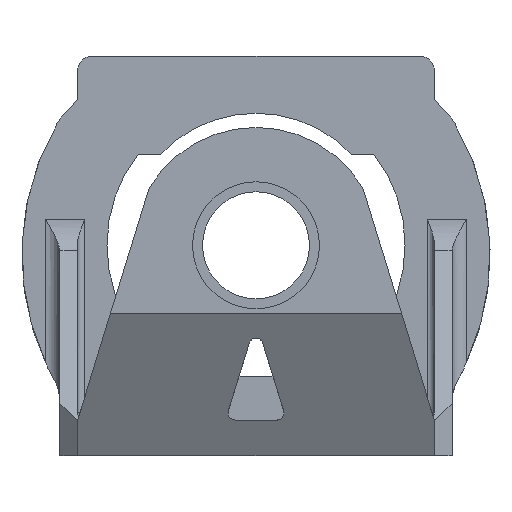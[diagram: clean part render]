
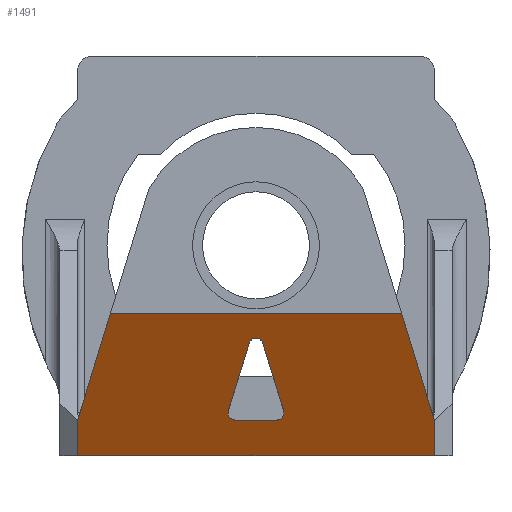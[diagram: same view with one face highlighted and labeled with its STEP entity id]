
A CAD part, front view. The second image highlights one B-rep face of the part: STEP entity #1491.
In plain terms, the highlighted planar face has unit normal (0, -0.866, -0.5).
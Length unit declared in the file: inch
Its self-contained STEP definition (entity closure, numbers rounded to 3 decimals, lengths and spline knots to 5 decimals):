
#9 = LINE ( 'NONE', #2778, #2748 ) ;
#16 = CARTESIAN_POINT ( 'NONE',  ( 1.28009, -3.73891, 0.84682 ) ) ;
#57 = VECTOR ( 'NONE', #4656, 39.37008 ) ;
#139 = ORIENTED_EDGE ( 'NONE', *, *, #4334, .T. ) ;
#243 = EDGE_LOOP ( 'NONE', ( #5774, #2853, #1229, #6867, #2499, #5254 ) ) ;
#247 = FACE_OUTER_BOUND ( 'NONE', #243, .T. ) ;
#426 = PLANE ( 'NONE',  #6865 ) ;
#448 = EDGE_CURVE ( 'NONE', #5351, #4371, #1457, .T. ) ;
#627 = VERTEX_POINT ( 'NONE', #1076 ) ;
#666 = LINE ( 'NONE', #5784, #6469 ) ;
#808 = EDGE_LOOP ( 'NONE', ( #6285, #3383, #1762, #4514, #139, #4345, #5946 ) ) ;
#1076 = CARTESIAN_POINT ( 'NONE',  ( 2.5, -3.39434, 0.25 ) ) ;
#1229 = ORIENTED_EDGE ( 'NONE', *, *, #4409, .T. ) ;
#1357 = VERTEX_POINT ( 'NONE', #3031 ) ;
#1457 = LINE ( 'NONE', #5075, #6756 ) ;
#1491 = ADVANCED_FACE ( 'NONE', ( #2971, #247 ), #426, .T. ) ;
#1517 = CARTESIAN_POINT ( 'NONE',  ( 1.06721, -3.39434, 0.25 ) ) ;
#1524 = DIRECTION ( 'NONE',  ( 0., 0.5, -0.866 ) ) ;
#1628 = EDGE_CURVE ( 'NONE', #4325, #2508, #4871, .T. ) ;
#1677 = VECTOR ( 'NONE', #2542, 39.37008 ) ;
#1683 = CARTESIAN_POINT ( 'NONE',  ( 1.29779, -3.7057, 0.7893 ) ) ;
#1762 = ORIENTED_EDGE ( 'NONE', *, *, #6845, .T. ) ;
#1819 = CARTESIAN_POINT ( 'NONE',  ( 1.44603, -3.42321, 0.3 ) ) ;
#1926 = VERTEX_POINT ( 'NONE', #3469 ) ;
#1936 = CARTESIAN_POINT ( 'NONE',  ( 2.5, -3.25, 0. ) ) ;
#2003 = EDGE_CURVE ( 'NONE', #627, #3072, #3495, .T. ) ;
#2021 = VECTOR ( 'NONE', #5023, 39.37008 ) ;
#2080 = EDGE_CURVE ( 'NONE', #5351, #3072, #4783, .T. ) ;
#2205 = DIRECTION ( 'NONE',  ( -0.257, -0.483, 0.837 ) ) ;
#2229 = EDGE_CURVE ( 'NONE', #3452, #5355, #666, .T. ) ;
#2258 = CARTESIAN_POINT ( 'NONE',  ( 2.5, -3.25, 0. ) ) ;
#2335 = CARTESIAN_POINT ( 'NONE',  ( 0., -3.25, 0. ) ) ;
#2363 = CARTESIAN_POINT ( 'NONE',  ( 1.44603, -3.40629, 0.27071 ) ) ;
#2405 = CARTESIAN_POINT ( 'NONE',  ( 1.44603, -3.42321, 0.3 ) ) ;
#2438 = EDGE_CURVE ( 'NONE', #1357, #2508, #5749, .T. ) ;
#2487 = CARTESIAN_POINT ( 'NONE',  ( 1.44529, -3.42894, 0.30993 ) ) ;
#2489 = DIRECTION ( 'NONE',  ( 1., 0., 0. ) ) ;
#2499 = ORIENTED_EDGE ( 'NONE', *, *, #448, .F. ) ;
#2508 = VERTEX_POINT ( 'NONE', #1683 ) ;
#2542 = DIRECTION ( 'NONE',  ( 0.257, 0.483, -0.837 ) ) ;
#2712 = VECTOR ( 'NONE', #6546, 39.37008 ) ;
#2735 = CARTESIAN_POINT ( 'NONE',  ( 4.52936, -3.82424, 0.99462 ) ) ;
#2741 = CARTESIAN_POINT ( 'NONE',  ( 1.20221, -3.7057, 0.7893 ) ) ;
#2748 = VECTOR ( 'NONE', #3890, 39.37008 ) ;
#2778 = CARTESIAN_POINT ( 'NONE',  ( 1.19603, -3.69411, 0.76923 ) ) ;
#2853 = ORIENTED_EDGE ( 'NONE', *, *, #6330, .F. ) ;
#2920 = CARTESIAN_POINT ( 'NONE',  ( 1.39603, -3.39434, 0.25 ) ) ;
#2971 = FACE_BOUND ( 'NONE', #808, .T. ) ;
#3006 = CARTESIAN_POINT ( 'NONE',  ( 1.44382, -3.43169, 0.3147 ) ) ;
#3025 = CARTESIAN_POINT ( 'NONE',  ( 1.44603, -3.42321, 0.3 ) ) ;
#3031 = CARTESIAN_POINT ( 'NONE',  ( 1.20221, -3.7057, 0.7893 ) ) ;
#3059 = CARTESIAN_POINT ( 'NONE',  ( 1.10397, -3.39434, 0.25 ) ) ;
#3072 = VERTEX_POINT ( 'NONE', #1936 ) ;
#3130 = LINE ( 'NONE', #5841, #1677 ) ;
#3170 = CARTESIAN_POINT ( 'NONE',  ( 1.05618, -3.43169, 0.3147 ) ) ;
#3383 = ORIENTED_EDGE ( 'NONE', *, *, #4594, .T. ) ;
#3452 = VERTEX_POINT ( 'NONE', #3059 ) ;
#3469 = CARTESIAN_POINT ( 'NONE',  ( 0.22911, -3.82424, 0.99462 ) ) ;
#3495 = LINE ( 'NONE', #2258, #2021 ) ;
#3577 = VECTOR ( 'NONE', #2205, 39.37008 ) ;
#3799 = CARTESIAN_POINT ( 'NONE',  ( 2.27089, -3.82424, 0.99462 ) ) ;
#3843 = CARTESIAN_POINT ( 'NONE',  ( 1.05618, -3.43169, 0.3147 ) ) ;
#3852 = CARTESIAN_POINT ( 'NONE',  ( 1.29779, -3.7057, 0.7893 ) ) ;
#3861 = CARTESIAN_POINT ( 'NONE',  ( 1.39603, -3.39434, 0.25 ) ) ;
#3890 = DIRECTION ( 'NONE',  ( -0.257, 0.483, -0.837 ) ) ;
#4012 = LINE ( 'NONE', #2735, #2712 ) ;
#4111 = CARTESIAN_POINT ( 'NONE',  ( 0.22847, -3.82303, 0.99251 ) ) ;
#4138 = VERTEX_POINT ( 'NONE', #2405 ) ;
#4254 = CARTESIAN_POINT ( 'NONE',  ( 4.52936, -3.25, 0. ) ) ;
#4325 = VERTEX_POINT ( 'NONE', #6407 ) ;
#4334 = EDGE_CURVE ( 'NONE', #3452, #4899, #4396, .T. ) ;
#4345 = ORIENTED_EDGE ( 'NONE', *, *, #6749, .F. ) ;
#4371 = VERTEX_POINT ( 'NONE', #4850 ) ;
#4390 = VERTEX_POINT ( 'NONE', #3799 ) ;
#4396 =( BOUNDED_CURVE ( )  B_SPLINE_CURVE ( 3, ( #5350, #1517, #6426, #3170 ),
 .UNSPECIFIED., .F., .F. ) 
 B_SPLINE_CURVE_WITH_KNOTS ( ( 4, 4 ),
 ( 3.14159, 5.01089 ),
 .UNSPECIFIED. ) 
 CURVE ( )  GEOMETRIC_REPRESENTATION_ITEM ( )  RATIONAL_B_SPLINE_CURVE ( ( 1., 0.729, 0.729, 1. ) ) 
 REPRESENTATION_ITEM ( '' )  );
#4409 = EDGE_CURVE ( 'NONE', #4390, #1926, #4012, .T. ) ;
#4434 = LINE ( 'NONE', #4111, #57 ) ;
#4514 = ORIENTED_EDGE ( 'NONE', *, *, #2229, .F. ) ;
#4575 = EDGE_CURVE ( 'NONE', #4371, #1926, #4434, .T. ) ;
#4594 = EDGE_CURVE ( 'NONE', #4325, #4138, #4611, .T. ) ;
#4611 =( BOUNDED_CURVE ( )  B_SPLINE_CURVE ( 3, ( #3006, #2487, #6307, #3025 ),
 .UNSPECIFIED., .F., .F. ) 
 B_SPLINE_CURVE_WITH_KNOTS ( ( 4, 4 ),
 ( 1.2723, 1.5708 ),
 .UNSPECIFIED. ) 
 CURVE ( )  GEOMETRIC_REPRESENTATION_ITEM ( )  RATIONAL_B_SPLINE_CURVE ( ( 1., 0.993, 0.993, 1. ) ) 
 REPRESENTATION_ITEM ( '' )  );
#4656 = DIRECTION ( 'NONE',  ( 0.257, -0.483, 0.837 ) ) ;
#4783 = LINE ( 'NONE', #2335, #6057 ) ;
#4810 = DIRECTION ( 'NONE',  ( 0., -0.866, -0.5 ) ) ;
#4850 = CARTESIAN_POINT ( 'NONE',  ( 0., -3.39434, 0.25 ) ) ;
#4871 = LINE ( 'NONE', #5499, #3577 ) ;
#4899 = VERTEX_POINT ( 'NONE', #3843 ) ;
#5023 = DIRECTION ( 'NONE',  ( 0., 0.5, -0.866 ) ) ;
#5075 = CARTESIAN_POINT ( 'NONE',  ( 0., -3.25, 0. ) ) ;
#5076 = DIRECTION ( 'NONE',  ( 1., 0., 0. ) ) ;
#5254 = ORIENTED_EDGE ( 'NONE', *, *, #2080, .T. ) ;
#5348 =( BOUNDED_CURVE ( )  B_SPLINE_CURVE ( 3, ( #1819, #2363, #6194, #2920 ),
 .UNSPECIFIED., .F., .F. ) 
 B_SPLINE_CURVE_WITH_KNOTS ( ( 4, 4 ),
 ( 1.5708, 3.14159 ),
 .UNSPECIFIED. ) 
 CURVE ( )  GEOMETRIC_REPRESENTATION_ITEM ( )  RATIONAL_B_SPLINE_CURVE ( ( 1., 0.805, 0.805, 1. ) ) 
 REPRESENTATION_ITEM ( '' )  );
#5350 = CARTESIAN_POINT ( 'NONE',  ( 1.10397, -3.39434, 0.25 ) ) ;
#5351 = VERTEX_POINT ( 'NONE', #6562 ) ;
#5355 = VERTEX_POINT ( 'NONE', #3861 ) ;
#5499 = CARTESIAN_POINT ( 'NONE',  ( 1.7388, -2.8782, -0.64398 ) ) ;
#5749 =( BOUNDED_CURVE ( )  B_SPLINE_CURVE ( 3, ( #2741, #6011, #16, #3852 ),
 .UNSPECIFIED., .F., .T. ) 
 B_SPLINE_CURVE_WITH_KNOTS ( ( 4, 4 ),
 ( 1.8693, 4.41389 ),
 .UNSPECIFIED. ) 
 CURVE ( )  GEOMETRIC_REPRESENTATION_ITEM ( )  RATIONAL_B_SPLINE_CURVE ( ( 1., 0.529, 0.529, 1. ) ) 
 REPRESENTATION_ITEM ( '' )  );
#5774 = ORIENTED_EDGE ( 'NONE', *, *, #2003, .F. ) ;
#5784 = CARTESIAN_POINT ( 'NONE',  ( 4.52936, -3.39434, 0.25 ) ) ;
#5841 = CARTESIAN_POINT ( 'NONE',  ( 2.70637, -3.00711, -0.42069 ) ) ;
#5946 = ORIENTED_EDGE ( 'NONE', *, *, #2438, .T. ) ;
#6011 = CARTESIAN_POINT ( 'NONE',  ( 1.21991, -3.73891, 0.84682 ) ) ;
#6057 = VECTOR ( 'NONE', #5076, 39.37008 ) ;
#6194 = CARTESIAN_POINT ( 'NONE',  ( 1.42532, -3.39434, 0.25 ) ) ;
#6285 = ORIENTED_EDGE ( 'NONE', *, *, #1628, .F. ) ;
#6307 = CARTESIAN_POINT ( 'NONE',  ( 1.44603, -3.42609, 0.30499 ) ) ;
#6330 = EDGE_CURVE ( 'NONE', #4390, #627, #3130, .T. ) ;
#6407 = CARTESIAN_POINT ( 'NONE',  ( 1.44382, -3.43169, 0.3147 ) ) ;
#6426 = CARTESIAN_POINT ( 'NONE',  ( 1.04537, -3.41141, 0.27957 ) ) ;
#6437 = DIRECTION ( 'NONE',  ( 0., -0.5, 0.866 ) ) ;
#6469 = VECTOR ( 'NONE', #2489, 39.37008 ) ;
#6546 = DIRECTION ( 'NONE',  ( -1., 0., 0. ) ) ;
#6562 = CARTESIAN_POINT ( 'NONE',  ( 0., -3.25, 0. ) ) ;
#6749 = EDGE_CURVE ( 'NONE', #1357, #4899, #9, .T. ) ;
#6756 = VECTOR ( 'NONE', #6437, 39.37008 ) ;
#6845 = EDGE_CURVE ( 'NONE', #4138, #5355, #5348, .T. ) ;
#6865 = AXIS2_PLACEMENT_3D ( 'NONE', #4254, #4810, #1524 ) ;
#6867 = ORIENTED_EDGE ( 'NONE', *, *, #4575, .F. ) ;
